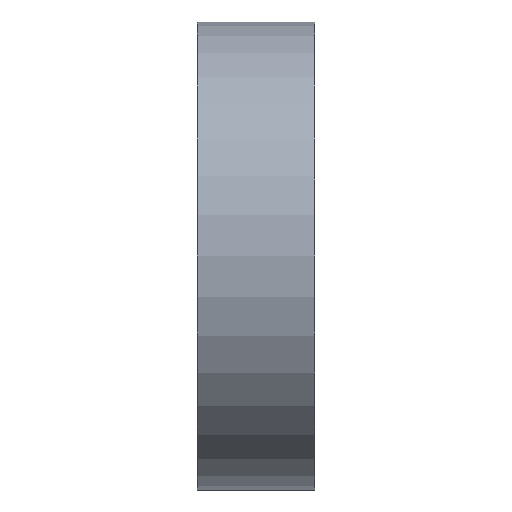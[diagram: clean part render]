
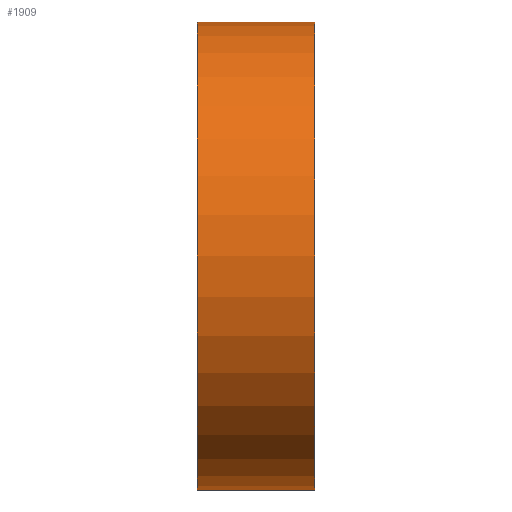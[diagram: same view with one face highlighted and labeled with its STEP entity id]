
A CAD part, left-side view. The second image highlights one B-rep face of the part: STEP entity #1909.
In plain terms, the highlighted cylindrical face has radius 50.8 mm (diameter 101.6 mm), a full revolution.
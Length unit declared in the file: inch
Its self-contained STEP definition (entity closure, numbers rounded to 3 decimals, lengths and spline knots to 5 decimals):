
#257=FACE_OUTER_BOUND('',#349,.T.);
#349=EDGE_LOOP('',(#1576,#1577,#1578,#1579));
#529=LINE('',#3236,#673);
#673=VECTOR('',#2696,2.);
#790=CIRCLE('',#2139,2.);
#791=CIRCLE('',#2140,2.);
#966=VERTEX_POINT('',#3233);
#967=VERTEX_POINT('',#3235);
#1227=EDGE_CURVE('',#966,#966,#790,.T.);
#1228=EDGE_CURVE('',#966,#967,#529,.T.);
#1229=EDGE_CURVE('',#967,#967,#791,.T.);
#1576=ORIENTED_EDGE('',*,*,#1227,.F.);
#1577=ORIENTED_EDGE('',*,*,#1228,.T.);
#1578=ORIENTED_EDGE('',*,*,#1229,.T.);
#1579=ORIENTED_EDGE('',*,*,#1228,.F.);
#1821=CYLINDRICAL_SURFACE('',#2138,2.);
#1909=ADVANCED_FACE('',(#257),#1821,.T.);
#2138=AXIS2_PLACEMENT_3D('',#3232,#2692,#2693);
#2139=AXIS2_PLACEMENT_3D('',#3234,#2694,#2695);
#2140=AXIS2_PLACEMENT_3D('',#3237,#2697,#2698);
#2692=DIRECTION('center_axis',(0.,1.,0.));
#2693=DIRECTION('ref_axis',(-1.,0.,0.));
#2694=DIRECTION('center_axis',(0.,1.,0.));
#2695=DIRECTION('ref_axis',(-1.,0.,0.));
#2696=DIRECTION('',(0.,-1.,0.));
#2697=DIRECTION('center_axis',(0.,1.,0.));
#2698=DIRECTION('ref_axis',(-1.,0.,0.));
#3232=CARTESIAN_POINT('Origin',(0.,0.,0.));
#3233=CARTESIAN_POINT('',(2.,1.,0.));
#3234=CARTESIAN_POINT('Origin',(0.,1.,0.));
#3235=CARTESIAN_POINT('',(2.,0.,0.));
#3236=CARTESIAN_POINT('',(2.,0.,0.));
#3237=CARTESIAN_POINT('Origin',(0.,0.,0.));
